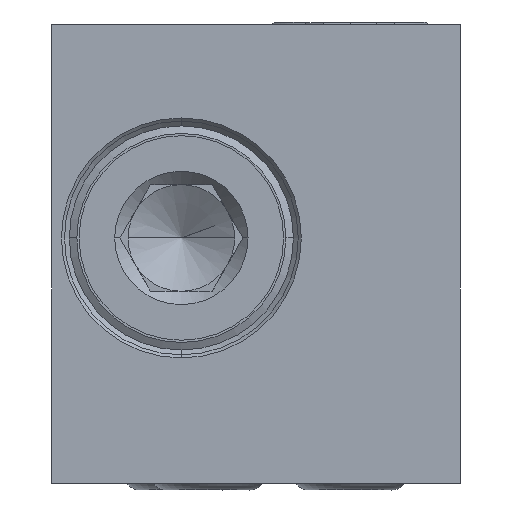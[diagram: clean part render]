
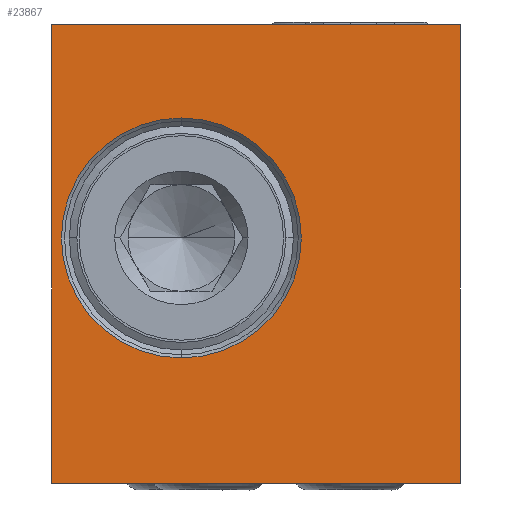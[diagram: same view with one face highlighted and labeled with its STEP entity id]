
A CAD part, left-side view. The second image highlights one B-rep face of the part: STEP entity #23867.
In plain terms, the highlighted planar face has unit normal (-1, 0, 0).
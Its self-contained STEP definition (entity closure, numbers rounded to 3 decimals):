
#4461=DIRECTION('',(0.,0.,1.));
#4462=VECTOR('',#4461,25.8);
#4463=CARTESIAN_POINT('',(-38.,11.5,-12.9));
#4464=LINE('',#4463,#4462);
#4465=DIRECTION('',(0.,-1.,0.));
#4466=VECTOR('',#4465,23.);
#4467=CARTESIAN_POINT('',(-38.,11.5,12.9));
#4468=LINE('',#4467,#4466);
#4469=DIRECTION('',(0.,0.,-1.));
#4470=VECTOR('',#4469,25.8);
#4471=CARTESIAN_POINT('',(-38.,-11.5,12.9));
#4472=LINE('',#4471,#4470);
#4473=DIRECTION('',(0.,1.,0.));
#4474=VECTOR('',#4473,23.);
#4475=CARTESIAN_POINT('',(-38.,-11.5,-12.9));
#4476=LINE('',#4475,#4474);
#4477=CARTESIAN_POINT('',(-38.,4.2,0.9));
#4478=DIRECTION('',(-1.,0.,0.));
#4479=DIRECTION('',(0.,0.,-1.));
#4480=AXIS2_PLACEMENT_3D('',#4477,#4478,#4479);
#4482=CARTESIAN_POINT('',(-38.,4.2,0.9));
#4483=DIRECTION('',(-1.,0.,0.));
#4484=DIRECTION('',(0.,0.,1.));
#4485=AXIS2_PLACEMENT_3D('',#4482,#4483,#4484);
#16279=CARTESIAN_POINT('',(-38.,11.5,12.9));
#16280=VERTEX_POINT('',#16279);
#16281=CARTESIAN_POINT('',(-38.,11.5,-12.9));
#16282=VERTEX_POINT('',#16281);
#16283=CARTESIAN_POINT('',(-38.,-11.5,12.9));
#16284=VERTEX_POINT('',#16283);
#16305=CARTESIAN_POINT('',(-38.,-11.5,-12.9));
#16306=VERTEX_POINT('',#16305);
#16351=CARTESIAN_POINT('',(-38.,4.2,-5.85));
#16352=CARTESIAN_POINT('',(-38.,4.2,7.65));
#16353=VERTEX_POINT('',#16351);
#16354=VERTEX_POINT('',#16352);
#23848=CARTESIAN_POINT('',(-38.,0.,0.));
#23849=DIRECTION('',(-1.,0.,0.));
#23850=DIRECTION('',(0.,-1.,0.));
#23851=AXIS2_PLACEMENT_3D('',#23848,#23849,#23850);
#23852=PLANE('',#23851);
#23853=ORIENTED_EDGE('',*,*,#23841,.T.);
#23854=ORIENTED_EDGE('',*,*,#21365,.T.);
#23856=ORIENTED_EDGE('',*,*,#23855,.T.);
#23858=ORIENTED_EDGE('',*,*,#23857,.T.);
#23859=EDGE_LOOP('',(#23853,#23854,#23856,#23858));
#23860=FACE_OUTER_BOUND('',#23859,.F.);
#23862=ORIENTED_EDGE('',*,*,#23861,.T.);
#23864=ORIENTED_EDGE('',*,*,#23863,.T.);
#23865=EDGE_LOOP('',(#23862,#23864));
#23866=FACE_BOUND('',#23865,.F.);
#23867=ADVANCED_FACE('',(#23860,#23866),#23852,.T.);
#4481=CIRCLE('',#4480,6.75);
#4486=CIRCLE('',#4485,6.75);
#21365=EDGE_CURVE('',#16280,#16284,#4468,.T.);
#23841=EDGE_CURVE('',#16282,#16280,#4464,.T.);
#23855=EDGE_CURVE('',#16284,#16306,#4472,.T.);
#23857=EDGE_CURVE('',#16306,#16282,#4476,.T.);
#23861=EDGE_CURVE('',#16353,#16354,#4481,.T.);
#23863=EDGE_CURVE('',#16354,#16353,#4486,.T.);
